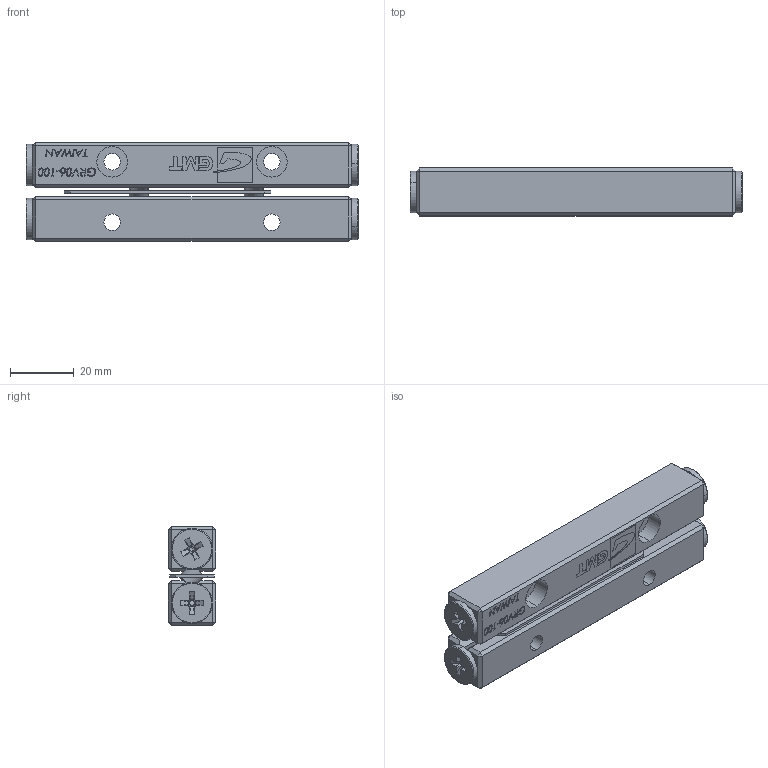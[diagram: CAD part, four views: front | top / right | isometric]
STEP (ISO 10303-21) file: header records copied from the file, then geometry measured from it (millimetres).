
FILE_DESCRIPTION (( 'STEP AP203' ), '1' );
FILE_NAME ('GRV06-100.STEP', '2012-10-17T03:30:06', ( '123' ), ( '' ), 'SwSTEP 2.0', 'SolidWorks 2012', '' );
FILE_SCHEMA (( 'CONFIG_CONTROL_DESIGN' ));
Length unit declared in the file: millimetre
Products named in the file (1): GRV06-100
Bounding box: 104 x 15 x 30.93 mm (x, y, z)
Surface area: 16557 mm2 (no closed solid volume)
Topology: 0 solids, 14 shells, 430 faces, 1751 edges, 1271 vertices
Faces by surface type: plane 310, cylinder 52, bspline 42, torus 16, cone 10
Entity records: 22859 total; most frequent: CARTESIAN_POINT 9045, ORIENTED_EDGE 2620, DIRECTION 2577, EDGE_CURVE 1749, VERTEX_POINT 1271, LINE 1179, VECTOR 1179, AXIS2_PLACEMENT_3D 699
